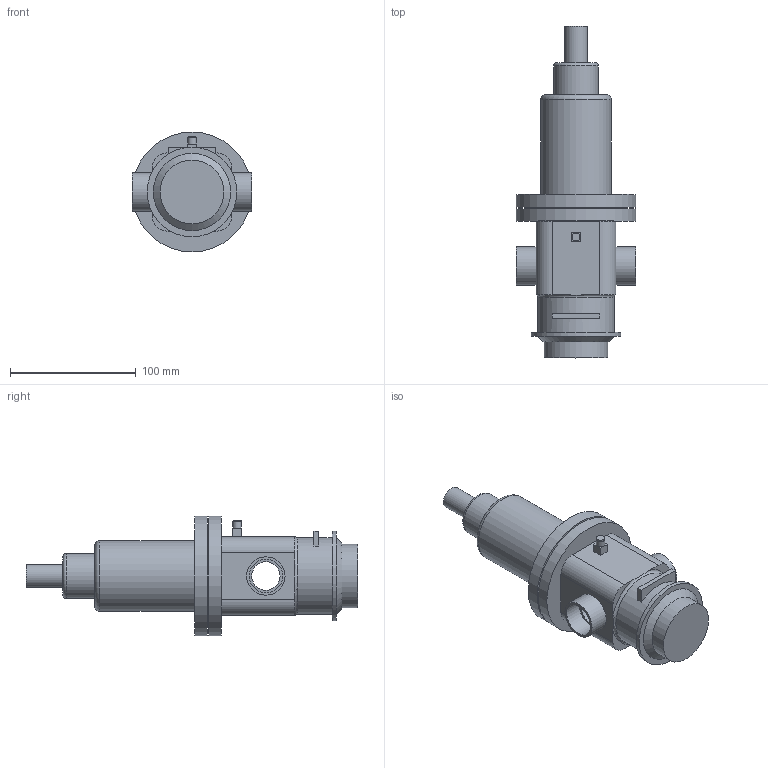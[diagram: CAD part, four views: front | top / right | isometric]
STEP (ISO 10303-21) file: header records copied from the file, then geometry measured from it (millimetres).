
FILE_DESCRIPTION(/* description */ (''),/* implementation_level */ '2;1');
FILE_NAME(/* name */ 'C:\Users\Vjadhav\Desktop\CAD for Inventor\Test for STEP\Autodesk_Inventor_FP_iParts\STEP\Victaulic_FP_Valve Pressure Relife_Series 867-3HC\Victaulic_FP_Valve Pressure Relife_Series 867-3HC_0.75 (20)_30.stp',/* time_stamp */ '2020-07-17T17:55:17+05:00',/* author */ ('VJadhav'),/* organization */ (''),/* preprocessor_version */ 'ST-DEVELOPER v17.2',/* originating_system */ 'Autodesk Inventor 2019',/* authorisation */ '');
FILE_SCHEMA (('AUTOMOTIVE_DESIGN { 1 0 10303 214 3 1 1 }'));
Length unit declared in the file: inch
Products named in the file (1): 867-3HC-30-0.75
Bounding box: 95.25 x 263.65 x 95.25 mm (x, y, z)
Volume: 715163.2 mm3; surface area: 78055.9 mm2
Topology: 1 solids, 1 shells, 58 faces, 145 edges, 105 vertices
Faces by surface type: plane 34, cylinder 20, torus 3, cone 1
Full cylindrical faces by diameter (mm): 6.35 x1, 6.985 x1, 17.78 x1, 22.606 x1, 26.67 x2, 30.48 x2, 35.56 x1, 50.8 x1, 55.88 x1, 60.96 x1, 71.12 x1, 76.2 x1, 95.25 x2
Entity records: 1892 total; most frequent: CARTESIAN_POINT 354, DIRECTION 339, ORIENTED_EDGE 290, EDGE_CURVE 145, AXIS2_PLACEMENT_3D 140, VERTEX_POINT 105, CIRCLE 81, EDGE_LOOP 76
